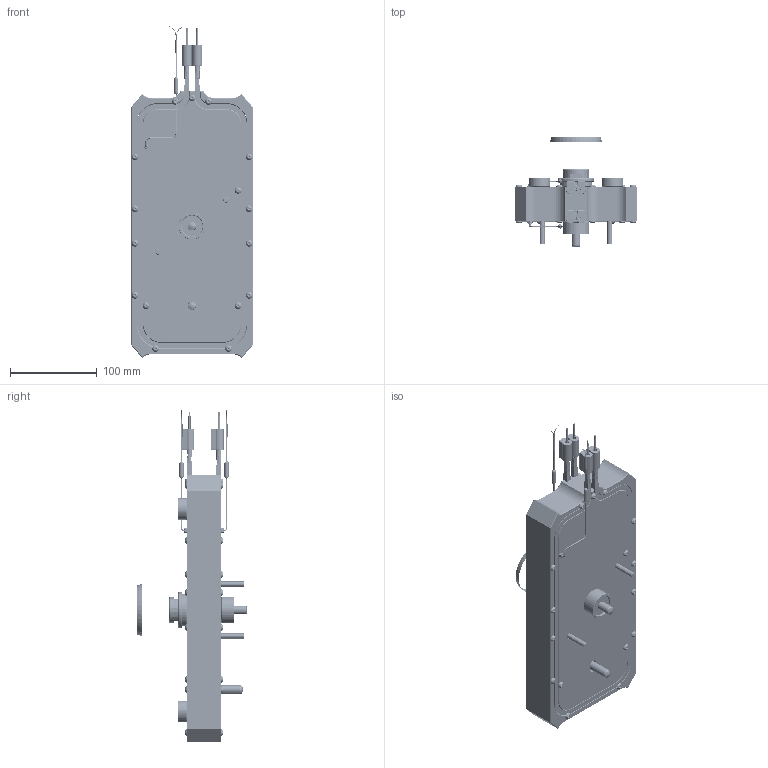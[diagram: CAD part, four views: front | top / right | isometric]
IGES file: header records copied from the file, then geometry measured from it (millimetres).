
Start section: SolidWorks IGES file using analytic representation for surfaces
Global section: file name: F:\CARTELLA CONDIVISA - 3D\01 - Piastre - 3D\Piastre Standard - Resistenza Sezione Quadrata 6x6\LP1-A04\Parte Multicorpo + Positivo Sede\CCLP1AQ-04T\CCLP1AQ-04T.IGS; native system: SolidWorks 2013; preprocessor: SolidWorks 2013; author: ws-20; date: 140130.145315; units: millimetre
Bounding box: 140 x 127.87 x 383.27 mm (x, y, z)
Surface area: 221967.6 mm2 (no closed solid volume)
Topology: 0 solids, 0 shells, 2401 faces, 24554 edges, 29719 vertices
Faces by surface type: bspline 1267, revolution 1134
